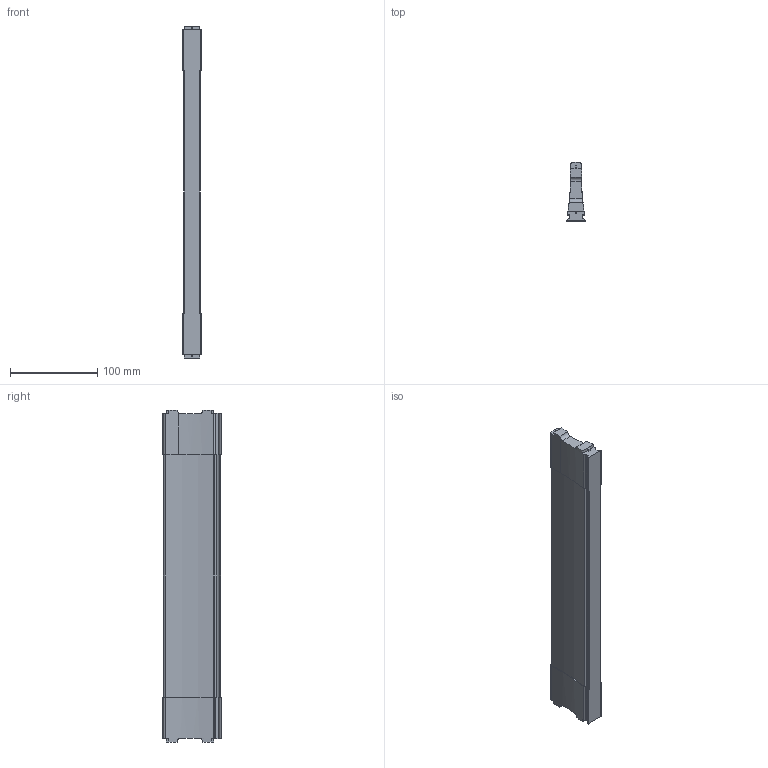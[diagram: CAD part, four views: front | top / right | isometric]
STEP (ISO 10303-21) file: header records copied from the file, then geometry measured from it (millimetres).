
FILE_DESCRIPTION (( 'STEP AP214' ), '1' );
FILE_NAME ('Traverse NOVAPro NL400 Mass X375,4_montiert.step', '2010-09-21T13:16:54', ( 'grass' ), ( '' ), 'SwSTEP 2.0', 'SolidWorks 2010', '' );
FILE_SCHEMA (( 'AUTOMOTIVE_DESIGN' ));
Length unit declared in the file: millimetre
Products named in the file (1): Traverse NOVAPro NL400 Mass X375,4_montiert
Bounding box: 21.4 x 67.5 x 381 mm (x, y, z)
Volume: 320459.2 mm3; surface area: 66885 mm2
Topology: 1 solids, 1 shells, 125 faces, 369 edges, 246 vertices
Faces by surface type: cylinder 68, plane 57
Entity records: 4377 total; most frequent: CARTESIAN_POINT 879, DIRECTION 753, ORIENTED_EDGE 738, EDGE_CURVE 369, AXIS2_PLACEMENT_3D 268, VERTEX_POINT 246, VECTOR 217, LINE 217
